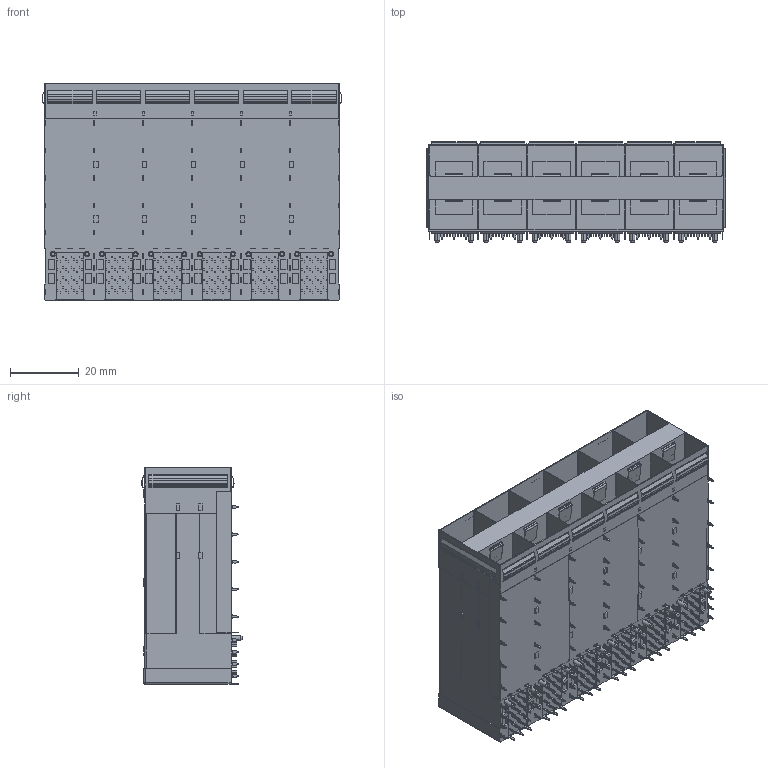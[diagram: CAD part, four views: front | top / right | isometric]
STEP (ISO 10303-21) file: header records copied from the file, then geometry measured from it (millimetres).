
FILE_DESCRIPTION (( 'STEP AP214' ), '1' );
FILE_NAME ('SFP28 2X6 ﾓﾐﾔﾂﾑﾀ ﾎﾞｵﾆ 3D.STEP', '2025-06-13T00:14:24', ( 'ﾉ｣ﾈｲｩｿﾍ' ), ( 'Www.SangSan.Cn' ), 'SwSTEP 2.0', 'SolidWorks 2018', '' );
FILE_SCHEMA (( 'AUTOMOTIVE_DESIGN' ));
Products named in the file (1): SFP28 2X6 衄堎挴  拸腑  3D
Bounding box: 87.56 x 29.38 x 63.25 mm (x, y, z)
Volume: 69801.3 mm3; surface area: 49830.3 mm2
Topology: 1 solids, 1 shells, 4280 faces, 11919 edges, 8054 vertices
Faces by surface type: plane 2988, cylinder 1266, cone 24, sphere 2
Entity records: 137247 total; most frequent: CARTESIAN_POINT 24252, ORIENTED_EDGE 23834, DIRECTION 23039, EDGE_CURVE 11917, VECTOR 9357, LINE 9357, VERTEX_POINT 8054, AXIS2_PLACEMENT_3D 6841
